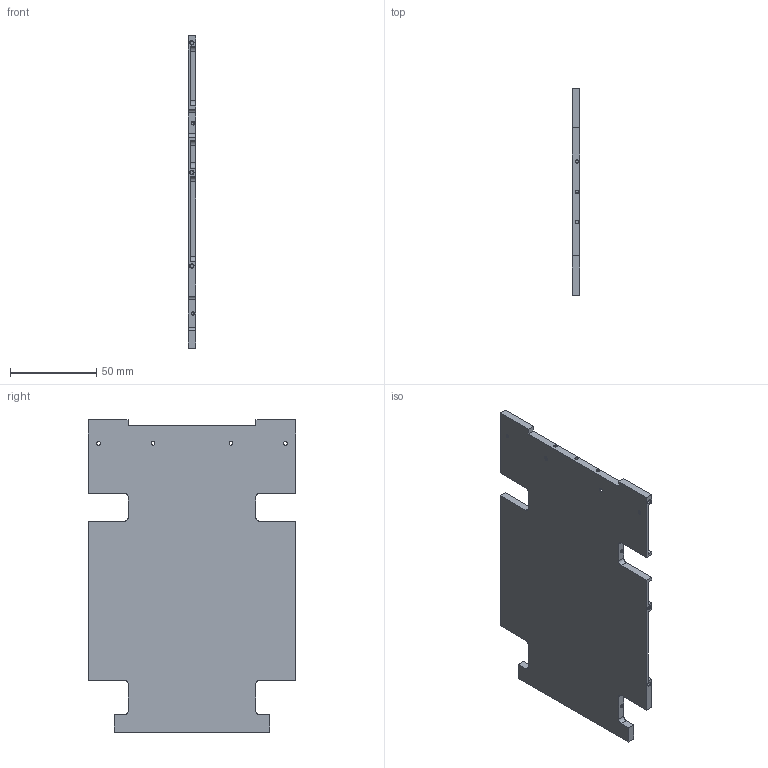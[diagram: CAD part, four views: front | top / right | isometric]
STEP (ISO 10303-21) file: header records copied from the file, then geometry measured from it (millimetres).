
FILE_DESCRIPTION (( 'STEP AP203' ), '1' );
FILE_NAME ('干扰枪-外盒体4.STEP', '2026-09-24T08:33:57', ( '' ), ( '' ), 'SwSTEP 2.0', 'SolidWorks 2016', '' );
FILE_SCHEMA (( 'CONFIG_CONTROL_DESIGN' ));
Length unit declared in the file: millimetre
Products named in the file (1): 干扰枪-外盒体4
Bounding box: 4.2 x 120 x 180.5 mm (x, y, z)
Volume: 33817.5 mm3; surface area: 45094.3 mm2
Topology: 1 solids, 1 shells, 247 faces, 620 edges, 386 vertices
Faces by surface type: plane 101, cylinder 92, cone 54
Entity records: 7389 total; most frequent: DIRECTION 1322, CARTESIAN_POINT 1258, ORIENTED_EDGE 1224, EDGE_CURVE 612, AXIS2_PLACEMENT_3D 466, VECTOR 390, LINE 390, VERTEX_POINT 386
